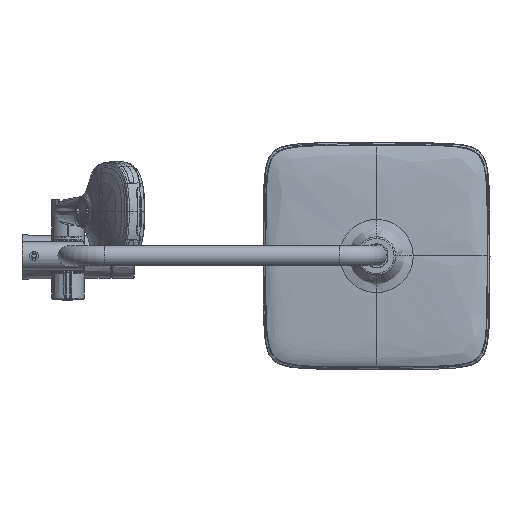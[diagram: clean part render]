
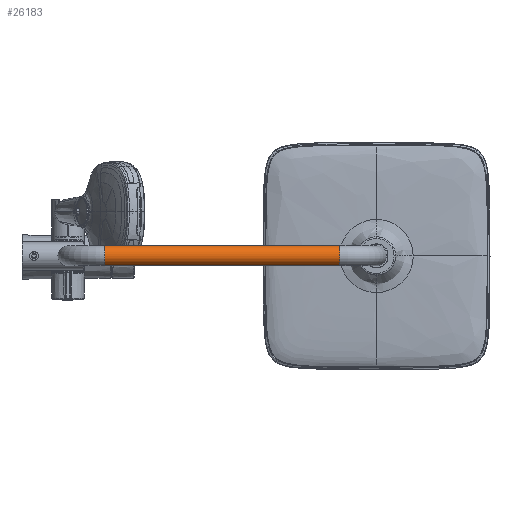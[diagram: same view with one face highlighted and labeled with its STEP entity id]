
A CAD part, top view. The second image highlights one B-rep face of the part: STEP entity #26183.
In plain terms, the highlighted cylindrical face has radius 11 mm (diameter 22 mm), a full revolution.
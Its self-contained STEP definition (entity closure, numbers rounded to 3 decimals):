
#5242=ORIENTED_EDGE('',*,*,#11098,.T.);
#5243=ORIENTED_EDGE('',*,*,#11099,.F.);
#11098=EDGE_CURVE('',#15607,#15607,#19532,.F.);
#11099=EDGE_CURVE('',#15608,#15608,#19533,.F.);
#15607=VERTEX_POINT('',#41933);
#15608=VERTEX_POINT('',#41936);
#19532=CIRCLE('',#34895,11.);
#19533=CIRCLE('',#34897,11.);
#20367=EDGE_LOOP('',(#5242));
#20368=EDGE_LOOP('',(#5243));
#23119=FACE_BOUND('',#20367,.T.);
#23120=FACE_BOUND('',#20368,.T.);
#25799=CYLINDRICAL_SURFACE('',#34896,11.);
#26183=ADVANCED_FACE('',(#23119,#23120),#25799,.T.);
#34895=AXIS2_PLACEMENT_3D('',#41932,#36798,#36799);
#34896=AXIS2_PLACEMENT_3D('',#41934,#36800,#36801);
#34897=AXIS2_PLACEMENT_3D('',#41935,#36802,#36803);
#36798=DIRECTION('',(1.,0.,0.));
#36799=DIRECTION('',(0.,0.,1.));
#36800=DIRECTION('',(1.,0.,0.));
#36801=DIRECTION('',(0.,0.,-1.));
#36802=DIRECTION('',(1.,0.,0.));
#36803=DIRECTION('',(0.,0.,1.));
#41932=CARTESIAN_POINT('',(299.5,0.,720.026));
#41933=CARTESIAN_POINT('',(299.5,0.,731.026));
#41934=CARTESIAN_POINT('',(40.5,0.,720.026));
#41935=CARTESIAN_POINT('',(40.5,0.,720.026));
#41936=CARTESIAN_POINT('',(40.5,0.,731.026));
